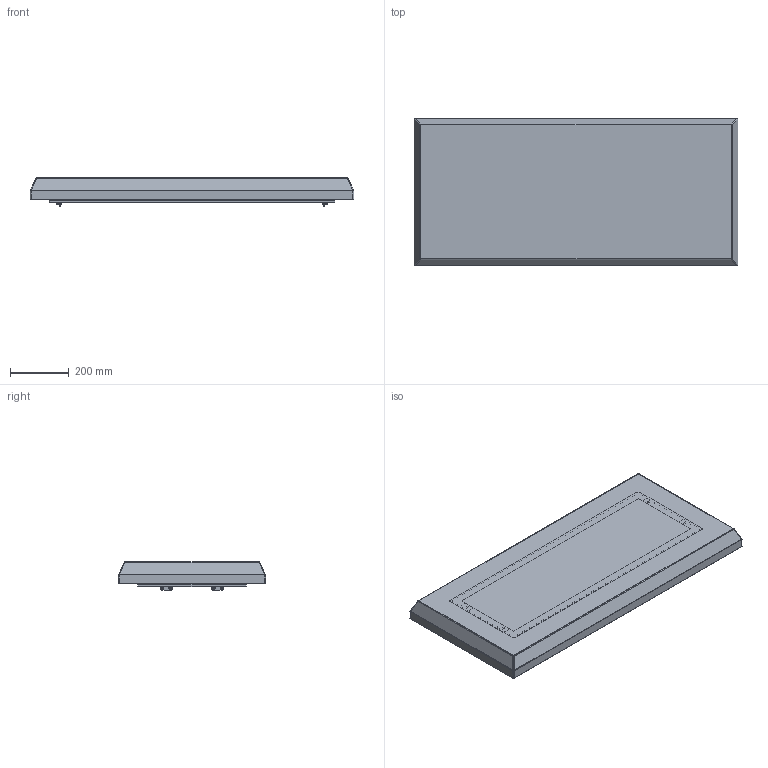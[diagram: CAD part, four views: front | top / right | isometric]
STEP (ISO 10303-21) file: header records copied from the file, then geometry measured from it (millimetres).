
FILE_DESCRIPTION(('STEP AP203'), '1');
FILE_NAME('3339 ÑÁ Óëè÷íàÿ êðûøà', '', ('UNSPECIFIED'), ('UNSPECIFIED'), 'C3D Converter', 'C3D Toolkit', '');
FILE_SCHEMA(('CONFIG_CONTROL_DESIGN'));
Length unit declared in the file: millimetre
Products named in the file (6): 3339.40.100 СБ; 3343; 3357
Assembly tree (21 placements, depth 2):
  3339.40.100 СБ
    3343
    3357  x4
    (unnamed)  x4
    (unnamed)  x4
    (unnamed)  x8
Bounding box: 1100 x 500 x 96 mm (x, y, z)
Volume: 1777252.9 mm3; surface area: 2150258.3 mm2
Topology: 22 solids, 22 shells, 602 faces, 1380 edges, 836 vertices
Faces by surface type: plane 230, cylinder 144, cone 120, bspline 64, torus 28, sphere 16
Full cylindrical faces by diameter (mm): 4.8 x8, 4.917 x4, 6 x4, 6.6 x4, 6.75 x4, 7 x8, 10 x4, 12 x4
Entity records: 12795 total; most frequent: CARTESIAN_POINT 6373, DIRECTION 1234, ORIENTED_EDGE 1038, EDGE_CURVE 519, AXIS2_PLACEMENT_3D 495, VERTEX_POINT 307, EDGE_LOOP 304, FACE_BOUND 264
